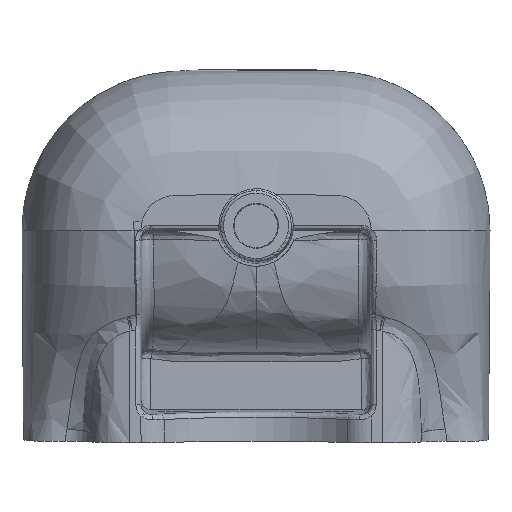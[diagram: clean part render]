
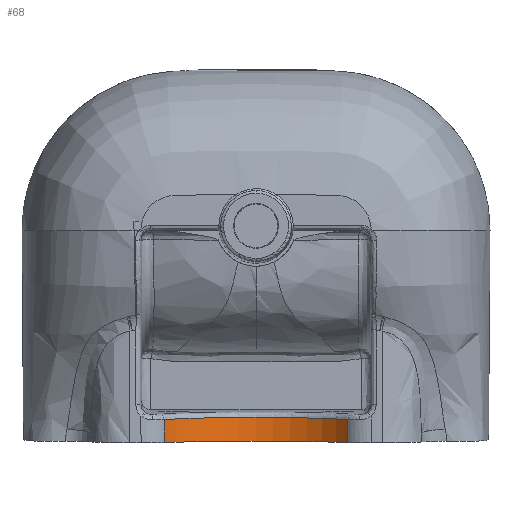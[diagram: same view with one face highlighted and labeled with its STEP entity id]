
A CAD part, front view. The second image highlights one B-rep face of the part: STEP entity #68.
In plain terms, the highlighted free-form (B-spline) face has degree [1, 2] with [2, 9] control points.
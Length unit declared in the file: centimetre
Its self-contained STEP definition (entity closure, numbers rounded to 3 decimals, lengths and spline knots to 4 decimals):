
#68=ADVANCED_FACE('',(#181),#1806,.T.);
#181=FACE_OUTER_BOUND('',#297,.T.);
#297=EDGE_LOOP('',(#641,#642,#643,#644));
#641=ORIENTED_EDGE('',*,*,#1236,.F.);
#642=ORIENTED_EDGE('',*,*,#1105,.F.);
#643=ORIENTED_EDGE('',*,*,#1115,.F.);
#644=ORIENTED_EDGE('',*,*,#1104,.F.);
#1104=EDGE_CURVE('',#1757,#1758,#1546,.T.);
#1105=EDGE_CURVE('',#1760,#1759,#1547,.T.);
#1115=EDGE_CURVE('',#1758,#1760,#1335,.T.);
#1236=EDGE_CURVE('',#1759,#1757,#1422,.T.);
#1335=(
BOUNDED_CURVE()
B_SPLINE_CURVE(2,(#21922,#21923,#21924,#21925,#21926),.UNSPECIFIED.,.F.,
 .F.)
B_SPLINE_CURVE_WITH_KNOTS((3,2,3),(2.2569,3.1416,4.0263),
 .UNSPECIFIED.)
CURVE()
GEOMETRIC_REPRESENTATION_ITEM()
RATIONAL_B_SPLINE_CURVE((1.,0.903,1.,0.903,1.))
REPRESENTATION_ITEM('')
);
#1422=(
BOUNDED_CURVE()
B_SPLINE_CURVE(3,(#24952,#24953,#24954,#24955,#24956,#24957,#24958,#24959,
#24960,#24961,#24962,#24963,#24964,#24965,#24966,#24967,#24968,#24969,#24970,
#24971,#24972,#24973,#24974,#24975,#24976),.UNSPECIFIED.,.F.,.F.)
B_SPLINE_CURVE_WITH_KNOTS((4,3,3,3,3,3,3,3,4),(0.,0.0276,
0.0553,0.0829,0.1105,0.1381,
0.1657,0.1934,0.221),.UNSPECIFIED.)
CURVE()
GEOMETRIC_REPRESENTATION_ITEM()
RATIONAL_B_SPLINE_CURVE((1.,1.022,1.045,1.069,
1.068,1.068,1.068,1.068,1.068,
1.068,1.068,1.068,1.068,1.068,
1.068,1.068,1.068,1.068,1.068,
1.068,1.068,1.069,1.045,1.022,
1.))
REPRESENTATION_ITEM('')
);
#1546=B_SPLINE_CURVE_WITH_KNOTS('',1,(#21831,#21832),.UNSPECIFIED.,.F.,
 .F.,(2,2),(0.,1.),.UNSPECIFIED.);
#1547=B_SPLINE_CURVE_WITH_KNOTS('',1,(#21833,#21834),.UNSPECIFIED.,.F.,
 .F.,(2,2),(-1.,0.),.UNSPECIFIED.);
#1757=VERTEX_POINT('',#19529);
#1758=VERTEX_POINT('',#19530);
#1759=VERTEX_POINT('',#19531);
#1760=VERTEX_POINT('',#19532);
#1806=(
BOUNDED_SURFACE()
B_SPLINE_SURFACE(1,2,((#14707,#14708,#14709,#14710,#14711,#14712,#14713,
#14714,#14715),(#14716,#14717,#14718,#14719,#14720,#14721,#14722,#14723,
#14724)),.UNSPECIFIED.,.F.,.F.,.F.)
B_SPLINE_SURFACE_WITH_KNOTS((2,2),(3,2,2,2,3),(0.,0.0455),(-3.1416,
-1.5708,0.,1.5708,3.1416),.UNSPECIFIED.)
GEOMETRIC_REPRESENTATION_ITEM()
RATIONAL_B_SPLINE_SURFACE(((1.,0.707,1.,0.707,1.,
0.707,1.,0.707,1.),(1.,0.707,1.,0.707,
1.,0.707,1.,0.707,1.)))
REPRESENTATION_ITEM('')
SURFACE()
);
#14707=CARTESIAN_POINT('',(-0.1184,-0.1834,0.0328));
#14708=CARTESIAN_POINT('',(-0.1184,-0.065,0.0328));
#14709=CARTESIAN_POINT('',(0.,-0.065,0.0328));
#14710=CARTESIAN_POINT('',(0.1184,-0.065,0.0328));
#14711=CARTESIAN_POINT('',(0.1184,-0.1834,0.0328));
#14712=CARTESIAN_POINT('',(0.1184,-0.3018,0.0328));
#14713=CARTESIAN_POINT('',(0.,-0.3018,0.0328));
#14714=CARTESIAN_POINT('',(-0.1184,-0.3018,0.0328));
#14715=CARTESIAN_POINT('',(-0.1184,-0.1834,0.0328));
#14716=CARTESIAN_POINT('',(-0.1184,-0.1834,-0.0127));
#14717=CARTESIAN_POINT('',(-0.1184,-0.065,-0.0127));
#14718=CARTESIAN_POINT('',(0.,-0.065,-0.0127));
#14719=CARTESIAN_POINT('',(0.1184,-0.065,-0.0127));
#14720=CARTESIAN_POINT('',(0.1184,-0.1834,-0.0127));
#14721=CARTESIAN_POINT('',(0.1184,-0.3018,-0.0127));
#14722=CARTESIAN_POINT('',(0.,-0.3018,-0.0127));
#14723=CARTESIAN_POINT('',(-0.1184,-0.3018,-0.0127));
#14724=CARTESIAN_POINT('',(-0.1184,-0.1834,-0.0127));
#19529=CARTESIAN_POINT('',(0.092,-0.1089,0.0203));
#19530=CARTESIAN_POINT('',(0.092,-0.1089,-0.0027));
#19531=CARTESIAN_POINT('',(-0.092,-0.1089,0.0203));
#19532=CARTESIAN_POINT('',(-0.092,-0.1089,-0.0027));
#21831=CARTESIAN_POINT('',(0.092,-0.1089,0.0203));
#21832=CARTESIAN_POINT('',(0.092,-0.1089,-0.0027));
#21833=CARTESIAN_POINT('',(-0.092,-0.1089,-0.0027));
#21834=CARTESIAN_POINT('',(-0.092,-0.1089,0.0203));
#21922=CARTESIAN_POINT('',(0.092,-0.1089,-0.0027));
#21923=CARTESIAN_POINT('',(0.0565,-0.065,-0.0016));
#21924=CARTESIAN_POINT('',(0.,-0.065,-0.0016));
#21925=CARTESIAN_POINT('',(-0.0565,-0.065,-0.0016));
#21926=CARTESIAN_POINT('',(-0.092,-0.1089,-0.0027));
#24952=CARTESIAN_POINT('',(-0.092,-0.1089,0.0203));
#24953=CARTESIAN_POINT('',(-0.0865,-0.102,0.0206));
#24954=CARTESIAN_POINT('',(-0.0802,-0.0958,0.0209));
#24955=CARTESIAN_POINT('',(-0.0733,-0.0904,0.0212));
#24956=CARTESIAN_POINT('',(-0.0664,-0.085,0.0214));
#24957=CARTESIAN_POINT('',(-0.0589,-0.0803,0.0217));
#24958=CARTESIAN_POINT('',(-0.051,-0.0765,0.0219));
#24959=CARTESIAN_POINT('',(-0.043,-0.0727,0.022));
#24960=CARTESIAN_POINT('',(-0.0347,-0.0698,0.0222));
#24961=CARTESIAN_POINT('',(-0.0261,-0.0679,0.0223));
#24962=CARTESIAN_POINT('',(-0.0176,-0.066,0.0224));
#24963=CARTESIAN_POINT('',(-0.0088,-0.065,0.0224));
#24964=CARTESIAN_POINT('',(0.,-0.065,0.0224));
#24965=CARTESIAN_POINT('',(0.0088,-0.065,0.0224));
#24966=CARTESIAN_POINT('',(0.0176,-0.066,0.0224));
#24967=CARTESIAN_POINT('',(0.0261,-0.0679,0.0223));
#24968=CARTESIAN_POINT('',(0.0347,-0.0698,0.0222));
#24969=CARTESIAN_POINT('',(0.043,-0.0727,0.022));
#24970=CARTESIAN_POINT('',(0.051,-0.0765,0.0219));
#24971=CARTESIAN_POINT('',(0.0589,-0.0803,0.0217));
#24972=CARTESIAN_POINT('',(0.0664,-0.085,0.0214));
#24973=CARTESIAN_POINT('',(0.0733,-0.0904,0.0212));
#24974=CARTESIAN_POINT('',(0.0802,-0.0958,0.0209));
#24975=CARTESIAN_POINT('',(0.0865,-0.102,0.0206));
#24976=CARTESIAN_POINT('',(0.092,-0.1089,0.0203));
